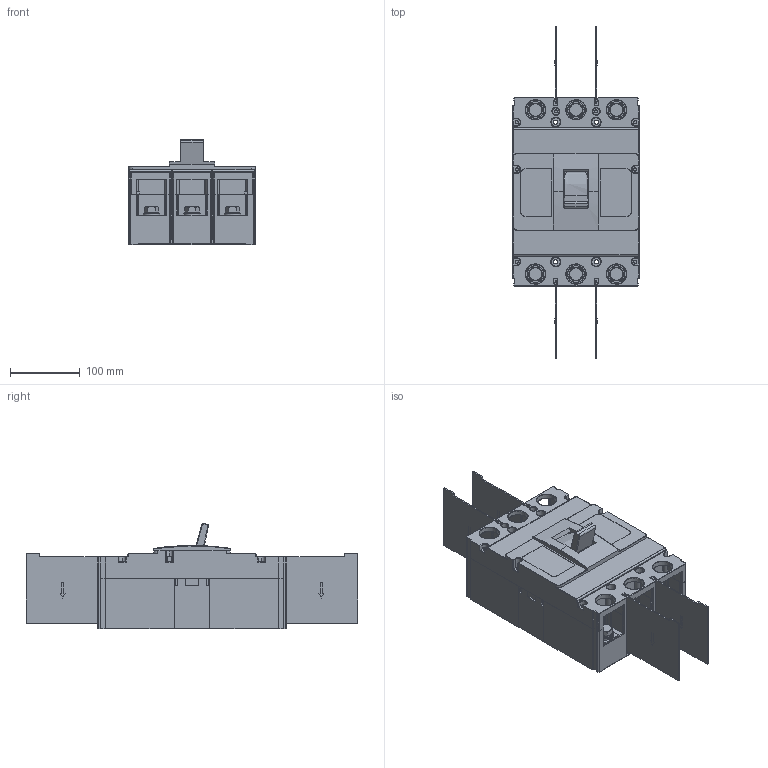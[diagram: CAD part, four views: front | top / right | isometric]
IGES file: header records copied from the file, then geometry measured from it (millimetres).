
Start section: SolidWorks IGES file using analytic representation for surfaces
Global section: file name: \\Brjgs100\dfsweg\GROUPS\BR_SC_JGS_WA_TECNICO\ENG\Usuarios\Rodrigob\conversão\Disjuntor de Caixa Moldada\Produto\DWP\DWP630\DWP630.IGS; native system: SolidWorks 2016; preprocessor: SolidWorks 2016; author: rodrigob; date: 180709.140518; units: millimetre
Bounding box: 181 x 475 x 150.39 mm (x, y, z)
Surface area: 664518.3 mm2 (no closed solid volume)
Topology: 0 solids, 0 shells, 2145 faces, 23934 edges, 23895 vertices
Faces by surface type: bspline 1439, revolution 706
